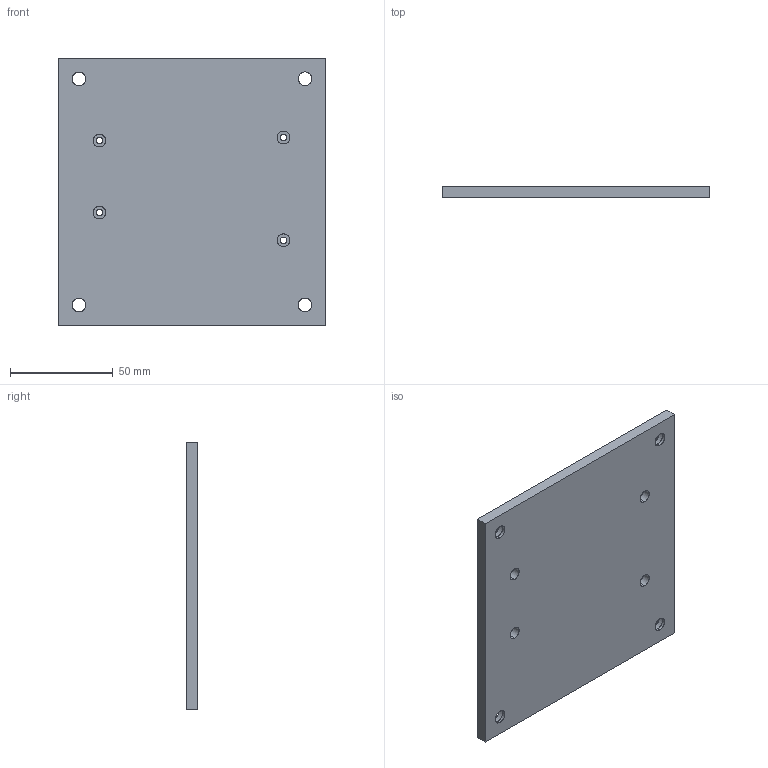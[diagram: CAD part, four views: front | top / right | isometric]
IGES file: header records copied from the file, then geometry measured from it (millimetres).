
Start section: SolidWorks IGES file using analytic representation for surfaces
Global section: file name: D:\RUSH3Dproject\07mechcomponent\ver3\4d_sensor_ver_5axis\Duralumin printed pieces\bottomholder\plate1.IGS; native system: SolidWorks 2021; preprocessor: SolidWorks 2021; author: BBNC; date: 220312.175018; units: millimetre
Bounding box: 130 x 5.5 x 130 mm (x, y, z)
Surface area: 37368.7 mm2 (no closed solid volume)
Topology: 0 solids, 0 shells, 46 faces, 1112 edges, 1112 vertices
Faces by surface type: revolution 32, bspline 14
